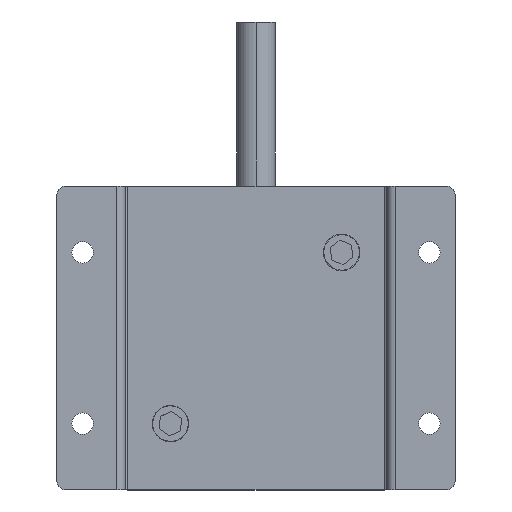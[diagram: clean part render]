
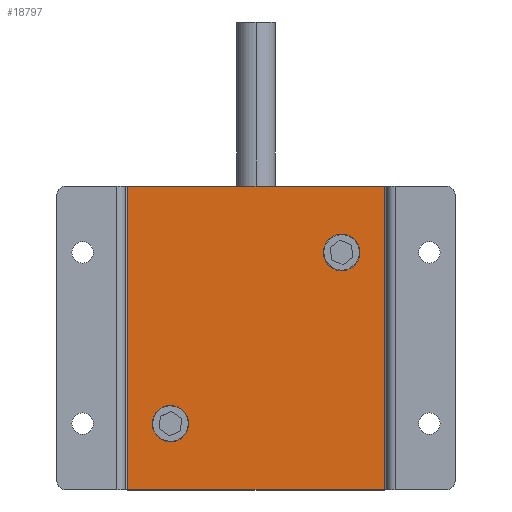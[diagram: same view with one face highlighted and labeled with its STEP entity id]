
A CAD part, top view. The second image highlights one B-rep face of the part: STEP entity #18797.
In plain terms, the highlighted planar face has unit normal (0, 0, 1) as drawn and (0, 0, -1) by its records, which use the part's own axes.
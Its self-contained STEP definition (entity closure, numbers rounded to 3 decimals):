
#322 = ORIENTED_EDGE ( 'NONE', *, *, #3201, .T. ) ;
#493 = EDGE_CURVE ( 'NONE', #7302, #2620, #7885, .T. ) ;
#793 = CIRCLE ( 'NONE', #6369, 2.75 ) ;
#919 = VERTEX_POINT ( 'NONE', #7083 ) ;
#1136 = AXIS2_PLACEMENT_3D ( 'NONE', #10345, #8613, #13320 ) ;
#1425 = LINE ( 'NONE', #7845, #15436 ) ;
#1497 = CARTESIAN_POINT ( 'NONE',  ( 20., -20., -1.5 ) ) ;
#1629 = VERTEX_POINT ( 'NONE', #13723 ) ;
#1696 = LINE ( 'NONE', #6293, #9740 ) ;
#2174 = EDGE_LOOP ( 'NONE', ( #5604, #13372, #19470, #10839 ) ) ;
#2284 = CARTESIAN_POINT ( 'NONE',  ( 30., 35.5, -1.5 ) ) ;
#2598 = DIRECTION ( 'NONE',  ( 0., 0., 1. ) ) ;
#2620 = VERTEX_POINT ( 'NONE', #18789 ) ;
#2943 = CARTESIAN_POINT ( 'NONE',  ( -30., 35.5, -1.5 ) ) ;
#3176 = EDGE_LOOP ( 'NONE', ( #13769, #14512 ) ) ;
#3201 = EDGE_CURVE ( 'NONE', #1629, #16010, #793, .T. ) ;
#3617 = CARTESIAN_POINT ( 'NONE',  ( 30., -35.5, -1.5 ) ) ;
#3738 = FACE_BOUND ( 'NONE', #3176, .T. ) ;
#4116 = VECTOR ( 'NONE', #12246, 1000. ) ;
#4121 = PLANE ( 'NONE',  #18313 ) ;
#4203 = DIRECTION ( 'NONE',  ( 1., 0., 0. ) ) ;
#4579 = CARTESIAN_POINT ( 'NONE',  ( -30., -40., -1.5 ) ) ;
#4782 = DIRECTION ( 'NONE',  ( 0., 1., 0. ) ) ;
#5338 = DIRECTION ( 'NONE',  ( 1., 0., 0. ) ) ;
#5384 = CIRCLE ( 'NONE', #9931, 2.75 ) ;
#5604 = ORIENTED_EDGE ( 'NONE', *, *, #14792, .F. ) ;
#6268 = AXIS2_PLACEMENT_3D ( 'NONE', #1497, #16984, #7509 ) ;
#6293 = CARTESIAN_POINT ( 'NONE',  ( -30., -35.5, -1.5 ) ) ;
#6369 = AXIS2_PLACEMENT_3D ( 'NONE', #13013, #19218, #5338 ) ;
#6494 = DIRECTION ( 'NONE',  ( 1., 0., 0. ) ) ;
#6950 = EDGE_CURVE ( 'NONE', #8386, #18280, #1696, .T. ) ;
#7083 = CARTESIAN_POINT ( 'NONE',  ( -30., 35.5, -1.5 ) ) ;
#7290 = FACE_BOUND ( 'NONE', #11317, .T. ) ;
#7302 = VERTEX_POINT ( 'NONE', #19617 ) ;
#7389 = DIRECTION ( 'NONE',  ( 0., 0., 1. ) ) ;
#7509 = DIRECTION ( 'NONE',  ( 1., 0., 0. ) ) ;
#7845 = CARTESIAN_POINT ( 'NONE',  ( 30., -40., -1.5 ) ) ;
#7885 = CIRCLE ( 'NONE', #6268, 2.75 ) ;
#8236 = VECTOR ( 'NONE', #6494, 1000. ) ;
#8386 = VERTEX_POINT ( 'NONE', #3617 ) ;
#8613 = DIRECTION ( 'NONE',  ( 0., 0., 1. ) ) ;
#8911 = EDGE_CURVE ( 'NONE', #16010, #1629, #5384, .T. ) ;
#9740 = VECTOR ( 'NONE', #12415, 1000. ) ;
#9931 = AXIS2_PLACEMENT_3D ( 'NONE', #19504, #7389, #4203 ) ;
#10340 = CARTESIAN_POINT ( 'NONE',  ( -30., 40., -1.5 ) ) ;
#10345 = CARTESIAN_POINT ( 'NONE',  ( 20., -20., -1.5 ) ) ;
#10695 = LINE ( 'NONE', #2943, #8236 ) ;
#10839 = ORIENTED_EDGE ( 'NONE', *, *, #12966, .T. ) ;
#10890 = CIRCLE ( 'NONE', #1136, 2.75 ) ;
#11199 = CARTESIAN_POINT ( 'NONE',  ( -22.75, 20., -1.5 ) ) ;
#11317 = EDGE_LOOP ( 'NONE', ( #322, #18189 ) ) ;
#11914 = VERTEX_POINT ( 'NONE', #2284 ) ;
#11984 = DIRECTION ( 'NONE',  ( 1., 0., 0. ) ) ;
#12246 = DIRECTION ( 'NONE',  ( 0., -1., 0. ) ) ;
#12415 = DIRECTION ( 'NONE',  ( -1., 0., 0. ) ) ;
#12966 = EDGE_CURVE ( 'NONE', #919, #11914, #10695, .T. ) ;
#13013 = CARTESIAN_POINT ( 'NONE',  ( -20., 20., -1.5 ) ) ;
#13320 = DIRECTION ( 'NONE',  ( 1., 0., 0. ) ) ;
#13372 = ORIENTED_EDGE ( 'NONE', *, *, #6950, .T. ) ;
#13723 = CARTESIAN_POINT ( 'NONE',  ( -17.25, 20., -1.5 ) ) ;
#13769 = ORIENTED_EDGE ( 'NONE', *, *, #493, .T. ) ;
#14512 = ORIENTED_EDGE ( 'NONE', *, *, #16820, .T. ) ;
#14624 = CARTESIAN_POINT ( 'NONE',  ( -30., -35.5, -1.5 ) ) ;
#14792 = EDGE_CURVE ( 'NONE', #8386, #11914, #1425, .T. ) ;
#15130 = FACE_OUTER_BOUND ( 'NONE', #2174, .T. ) ;
#15286 = LINE ( 'NONE', #4579, #4116 ) ;
#15436 = VECTOR ( 'NONE', #4782, 1000. ) ;
#16010 = VERTEX_POINT ( 'NONE', #11199 ) ;
#16820 = EDGE_CURVE ( 'NONE', #2620, #7302, #10890, .T. ) ;
#16984 = DIRECTION ( 'NONE',  ( 0., 0., 1. ) ) ;
#18189 = ORIENTED_EDGE ( 'NONE', *, *, #8911, .T. ) ;
#18280 = VERTEX_POINT ( 'NONE', #14624 ) ;
#18313 = AXIS2_PLACEMENT_3D ( 'NONE', #10340, #2598, #11984 ) ;
#18789 = CARTESIAN_POINT ( 'NONE',  ( 17.25, -20., -1.5 ) ) ;
#18797 = ADVANCED_FACE ( 'NONE', ( #7290, #3738, #15130 ), #4121, .F. ) ;
#19218 = DIRECTION ( 'NONE',  ( 0., 0., 1. ) ) ;
#19470 = ORIENTED_EDGE ( 'NONE', *, *, #19782, .F. ) ;
#19504 = CARTESIAN_POINT ( 'NONE',  ( -20., 20., -1.5 ) ) ;
#19617 = CARTESIAN_POINT ( 'NONE',  ( 22.75, -20., -1.5 ) ) ;
#19782 = EDGE_CURVE ( 'NONE', #919, #18280, #15286, .T. ) ;
